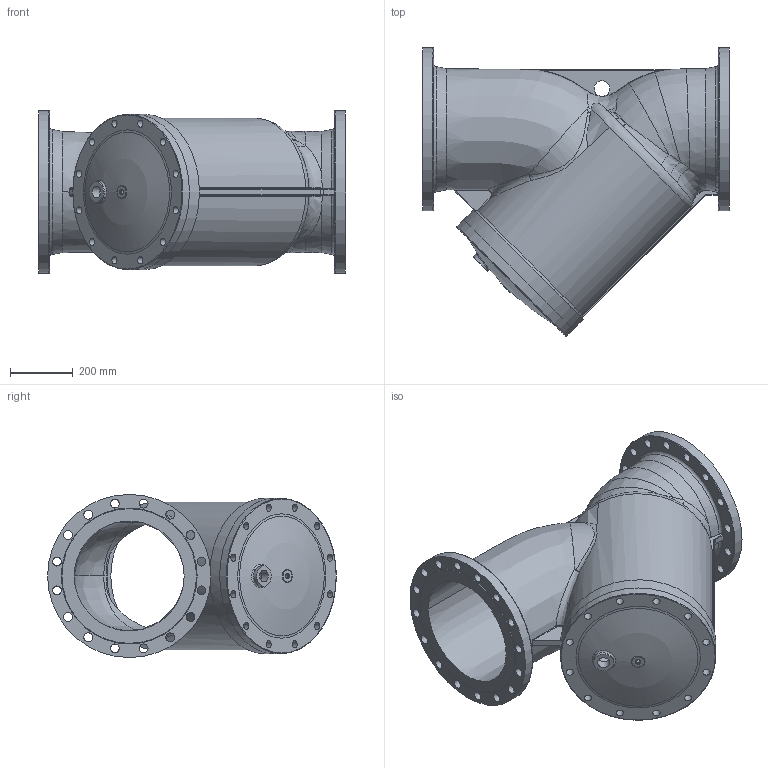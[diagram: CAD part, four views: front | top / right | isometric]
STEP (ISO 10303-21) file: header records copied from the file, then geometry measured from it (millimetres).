
FILE_DESCRIPTION(/* description */ ('STEP AP203'),/* implementation_level */ '2;1');
FILE_NAME(/* name */ '',/* time_stamp */ '2024-12-10T11:49:12+07:00',/* author */ ('Eva'),/* organization */ (''),/* preprocessor_version */ 'ST-DEVELOPER v20',/* originating_system */ 'Autodesk Inventor 2025',/* authorisation */ '');
FILE_SCHEMA (('AUTOMOTIVE_DESIGN { 1 0 10303 214 3 1 1 }'));
Products named in the file (3): 德标过滤器350装配体(1); 350阀体; 350阀盖
Assembly tree (2 placements, depth 2):
  德标过滤器350装配体(1)
    350阀体
    350阀盖
Bounding box: 980 x 919.96 x 520 mm (x, y, z)
Volume: 42940353.1 mm3; surface area: 4305154.9 mm2
Topology: 2 solids, 2 shells, 244 faces, 633 edges, 380 vertices
Faces by surface type: cylinder 91, bspline 83, plane 29, cone 20, torus 18, sphere 3
Full cylindrical faces by diameter (mm): 10 x1, 12 x1, 17 x1, 17.5 x12, 23 x12, 28 x32, 38 x1, 40 x1, 50 x1, 65 x1, 350 x1, 369 x2, 423 x2, 435 x1, 495 x2, 520 x2
Entity records: 58908 total; most frequent: CARTESIAN_POINT 53348, ORIENTED_EDGE 1198, DIRECTION 989, EDGE_CURVE 599, AXIS2_PLACEMENT_3D 430, VERTEX_POINT 380, EDGE_LOOP 361, CIRCLE 263
